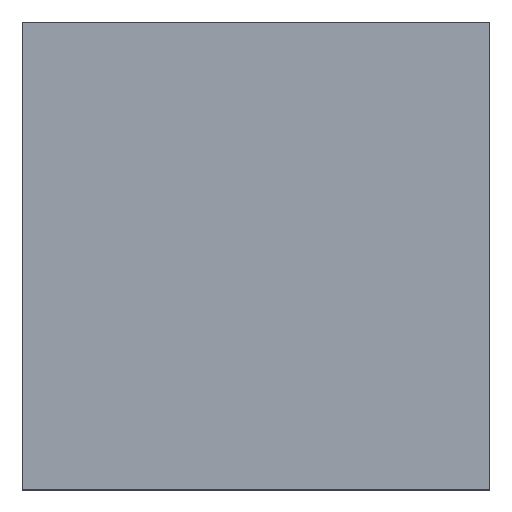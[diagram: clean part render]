
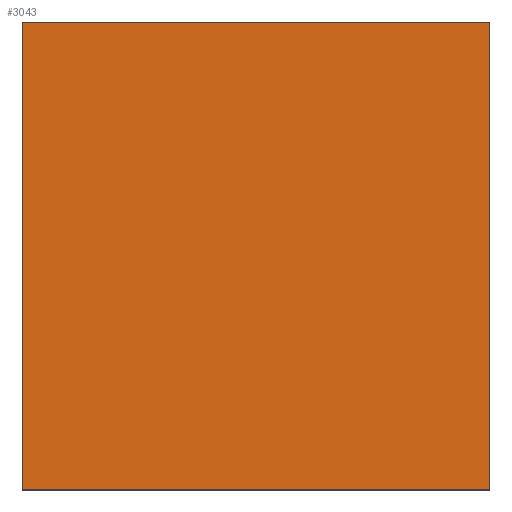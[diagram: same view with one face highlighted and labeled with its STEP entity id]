
A CAD part, top view. The second image highlights one B-rep face of the part: STEP entity #3043.
In plain terms, the highlighted planar face has unit normal (0, 0, 1).
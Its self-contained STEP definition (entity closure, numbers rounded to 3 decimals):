
#204=FACE_OUTER_BOUND('',#389,.T.);
#389=EDGE_LOOP('',(#2719,#2720,#2721,#2722));
#794=LINE('',#4795,#1205);
#796=LINE('',#4799,#1207);
#798=LINE('',#4803,#1209);
#800=LINE('',#4806,#1211);
#1205=VECTOR('',#3946,10.);
#1207=VECTOR('',#3950,10.);
#1209=VECTOR('',#3954,10.);
#1211=VECTOR('',#3958,10.);
#1480=VERTEX_POINT('',#4792);
#1481=VERTEX_POINT('',#4794);
#1482=VERTEX_POINT('',#4798);
#1483=VERTEX_POINT('',#4802);
#1890=EDGE_CURVE('',#1481,#1480,#794,.T.);
#1892=EDGE_CURVE('',#1482,#1481,#796,.T.);
#1894=EDGE_CURVE('',#1483,#1482,#798,.T.);
#1896=EDGE_CURVE('',#1480,#1483,#800,.T.);
#2719=ORIENTED_EDGE('',*,*,#1896,.T.);
#2720=ORIENTED_EDGE('',*,*,#1894,.T.);
#2721=ORIENTED_EDGE('',*,*,#1892,.T.);
#2722=ORIENTED_EDGE('',*,*,#1890,.T.);
#2882=PLANE('',#3221);
#3043=ADVANCED_FACE('',(#204),#2882,.T.);
#3221=AXIS2_PLACEMENT_3D('',#4807,#3959,#3960);
#3946=DIRECTION('',(-1.,0.,0.));
#3950=DIRECTION('',(0.,1.,0.));
#3954=DIRECTION('',(1.,0.,0.));
#3958=DIRECTION('',(0.,-1.,0.));
#3959=DIRECTION('center_axis',(0.,0.,1.));
#3960=DIRECTION('ref_axis',(1.,0.,0.));
#4792=CARTESIAN_POINT('',(-30.,30.,60.));
#4794=CARTESIAN_POINT('',(30.,30.,60.));
#4795=CARTESIAN_POINT('',(30.,30.,60.));
#4798=CARTESIAN_POINT('',(30.,-30.,60.));
#4799=CARTESIAN_POINT('',(30.,-30.,60.));
#4802=CARTESIAN_POINT('',(-30.,-30.,60.));
#4803=CARTESIAN_POINT('',(-30.,-30.,60.));
#4806=CARTESIAN_POINT('',(-30.,30.,60.));
#4807=CARTESIAN_POINT('Origin',(0.,0.,60.));
